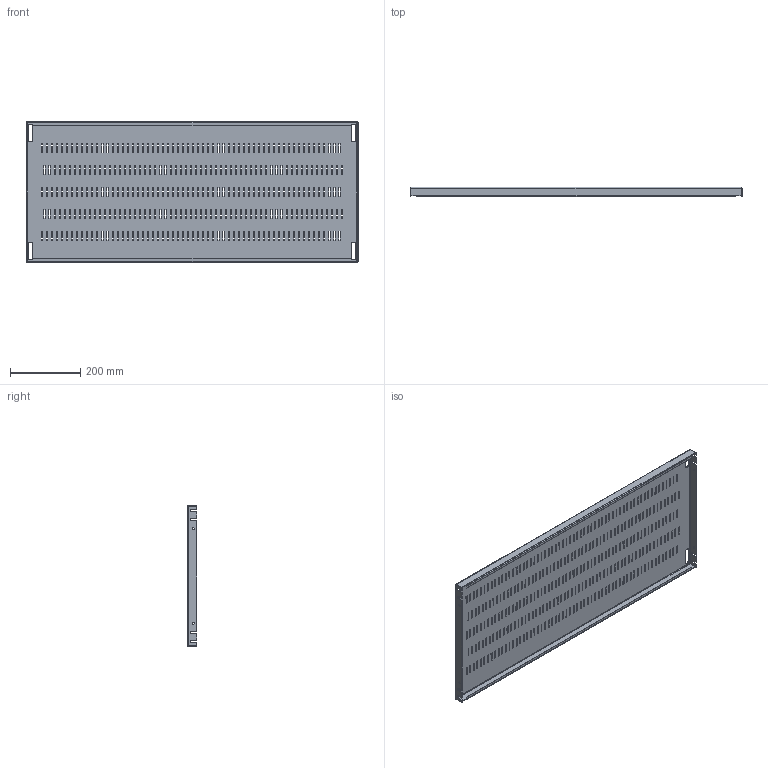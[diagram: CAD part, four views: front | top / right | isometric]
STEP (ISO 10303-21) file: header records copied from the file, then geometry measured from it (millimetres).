
FILE_DESCRIPTION (( 'STEP AP203' ), '1' );
FILE_NAME ('76500.step', '2013-04-16T09:34:45', ( '' ), ( '' ), 'SwSTEP 2.0', 'SolidWorks 2010', '' );
FILE_SCHEMA (( 'CONFIG_CONTROL_DESIGN' ));
Length unit declared in the file: inch
Products named in the file (2): 87557762; 76500
Assembly tree (1 placements, depth 2):
  76500
    87557762
Bounding box: 948 x 27 x 400.41 mm (x, y, z)
Volume: 602103.4 mm3; surface area: 890842.2 mm2
Topology: 1 solids, 1 shells, 1314 faces, 3904 edges, 2592 vertices
Faces by surface type: plane 1266, cylinder 40, bspline 8
Entity records: 44880 total; most frequent: CARTESIAN_POINT 8246, ORIENTED_EDGE 7808, DIRECTION 6560, EDGE_CURVE 3904, LINE 3812, VECTOR 3812, VERTEX_POINT 2592, EDGE_LOOP 1930
